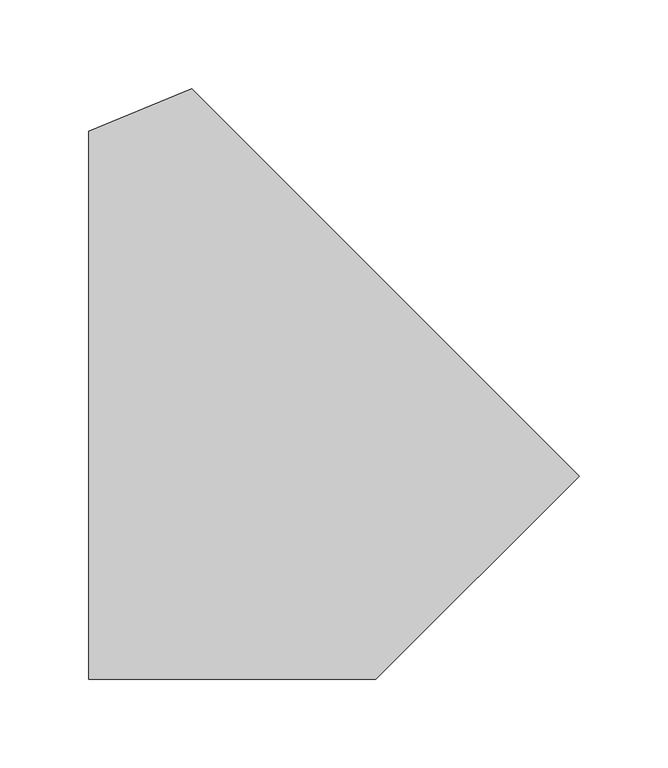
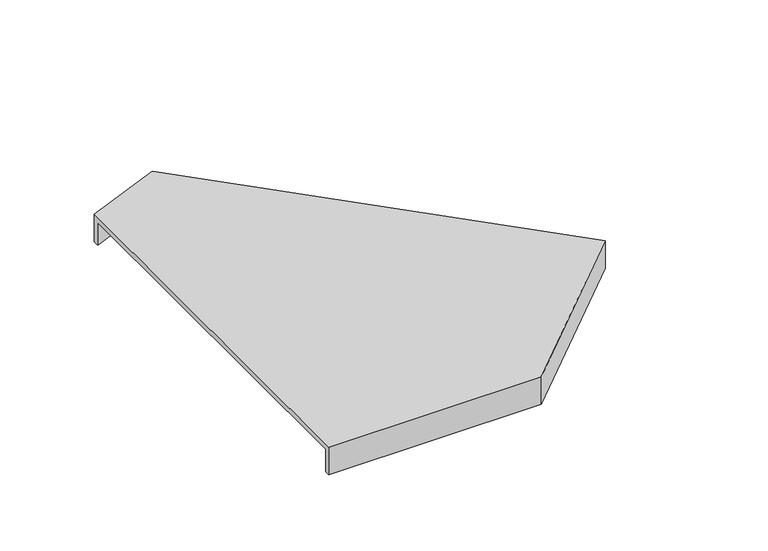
"""IFC4 building model written with IfcOpenShell, lengths in millimetres: proxy geometry, Horizontal Bend_Cover_TCPWT45_Basorcanal : Basorcanal TCPWT45 300."""

from ifc_helpers import new_model, si_unit, origin, place, context, project, spatial, faceted_brep, source, transform, mapped, element, save


def generic_models_2ab8ae52(model_context):
    return source(origin(), model_context, "Body", "Brep", [
        faceted_brep([(57.9435832, 28.3305868, 4.0), (0.0, 4.3295688, 4.0), (0.0, -304.0, 4.0), (161.6568542, -304.0, 4.0), (275.9655121, -189.6913421, 4.0), (61.0050506, 25.2691193, 0.0), (273.137085, -186.862915, 0.0), (160.0, -300.0, 0.0), (0.0, -300.0, 0.0), (0.0, 0.0, 0.0), (0.0, -300.0, -18.0), (0.0, -304.0, -18.0), (0.0, 4.3295688, -18.0), (0.0, 0.0, -18.0), (61.0050506, 25.2691193, -18.0), (57.9435832, 28.3305868, -18.0), (275.9655121, -189.6913421, -18.0), (273.137085, -186.862915, -18.0), (160.0, -300.0, -18.0), (161.6568542, -304.0, -18.0)], [[[0, 1, 2, 3, 4]], [[5, 6, 7, 8, 9]], [[9, 8, 10, 11, 2, 1, 12, 13]], [[6, 5, 14, 15, 0, 4, 16, 17]], [[13, 12, 15, 14]], [[13, 14, 5, 9]], [[1, 0, 15, 12]], [[18, 17, 16, 19, 11, 10]], [[18, 10, 8, 7]], [[3, 2, 11, 19]], [[4, 3, 19, 16]], [[17, 18, 7, 6]]]),
    ])


if __name__ == "__main__":
    model = new_model("IFC4")
    model_context = context("Model", 3, world=origin())
    ifc_project = project(units=[si_unit("LENGTHUNIT", "METRE", prefix="MILLI")], contexts=[model_context])
    site = spatial("IfcSite", under=ifc_project)
    building = spatial("IfcBuilding", under=site)
    placement = place(None, origin())
    generic_models_shape = generic_models_2ab8ae52(model_context)
    element("IfcBuildingElementProxy", 1, Name="Horizontal Bend_Cover_TCPWT45_Basorcanal : Basorcanal TCPWT45 300", ObjectType="Horizontal Bend_Cover_TCPWT45_Basorcanal : Basorcanal TCPWT45 300", at=placement, inside=building, context=model_context, shape_type="MappedRepresentation", body=[
        mapped(generic_models_shape, transform((0.0, 0.0, 0.0), x_axis=(1.0, 0.0, 0.0), y_axis=(0.0, 1.0, 0.0), z_axis=(0.0, 0.0, 1.0))),
    ])
    save(model, "model.ifc")
